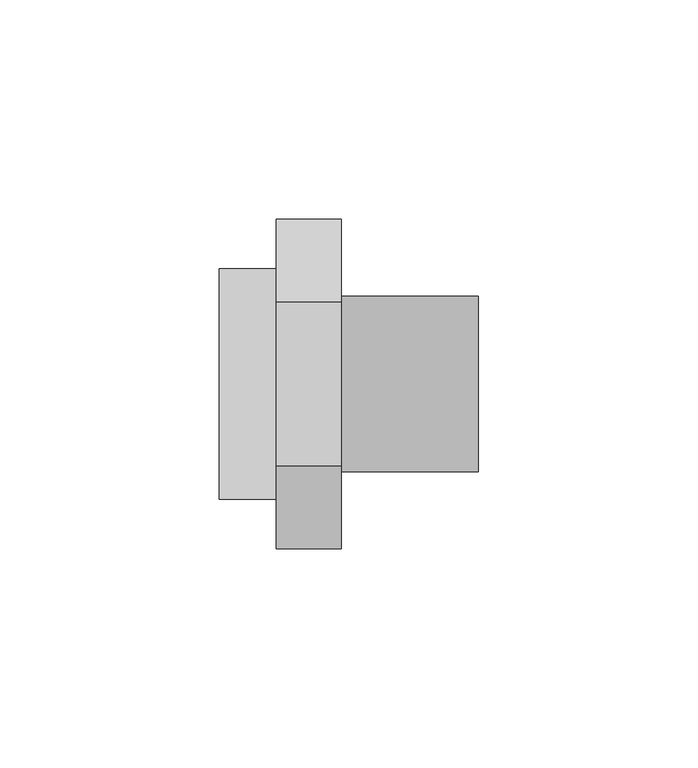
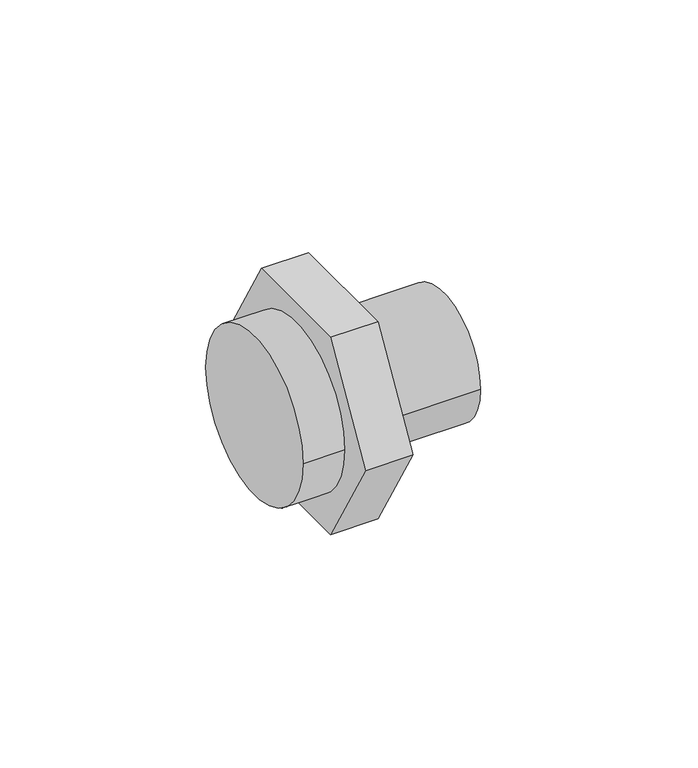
"""IFC4 building model written with IfcOpenShell, lengths in millimetres: pipe fitting geometry, 01101008 : Manguitos multiplos H/M/H."""

from ifc_helpers import new_model, si_unit, point, frame, origin, origin_2d, place, context, project, spatial, polyline, circle_curve, trimmed, segment, composite_curve, outline, extrude, source, transform, mapped, element, save


def pipe_fitting_eea0727a(model_context):
    return source(origin(), model_context, "Body", "SweptSolid", [
        extrude(outline(composite_curve([segment(trimmed(circle_curve(origin_2d(), 26.25), [point((26.25, 0.0))], [point((-26.25, 0.0))], False, "CARTESIAN"), True, "CONTINUOUS"), segment(trimmed(circle_curve(origin_2d(), 26.25), [point((-26.25, 0.0))], [point((26.25, 0.0))], False, "CARTESIAN"), True, "CONTINUOUS")], self_intersect=False)), frame((0.0, 0.0, 0.0), z_axis=(1.0, 0.0, 0.0), x_axis=(0.0, 1.0, 0.0)), (0.0, 0.0, 1.0), 13.0),
        extrude(outline(polyline([(-18.7638837, 32.5), (18.7638837, 32.5), (37.5277675, 0.0), (18.7638837, -32.5), (-18.7638837, -32.5), (-37.5277675, 0.0), (-18.7638837, 32.5)])), frame((13.0, 0.0, 0.0), z_axis=(1.0, 0.0, 0.0), x_axis=(0.0, 1.0, 0.0)), (0.0, 0.0, 1.0), 14.75),
        extrude(outline(composite_curve([segment(trimmed(circle_curve(origin_2d(), 20.0), [point((-20.0, 0.0))], [point((20.0, 0.0))], False, "CARTESIAN"), True, "CONTINUOUS"), segment(trimmed(circle_curve(origin_2d(), 20.0), [point((20.0, 0.0))], [point((-20.0, 0.0))], False, "CARTESIAN"), True, "CONTINUOUS")], self_intersect=False)), frame((27.75, 0.0, 0.0), z_axis=(1.0, 0.0, 0.0), x_axis=(0.0, 1.0, 0.0)), (0.0, 0.0, 1.0), 31.25),
    ])


if __name__ == "__main__":
    model = new_model("IFC4")
    model_context = context("Model", 3, world=origin())
    ifc_project = project(units=[si_unit("LENGTHUNIT", "METRE", prefix="MILLI")], contexts=[model_context])
    site = spatial("IfcSite", under=ifc_project)
    building = spatial("IfcBuilding", under=site)
    placement = place(None, origin())
    pipe_fitting_shape = pipe_fitting_eea0727a(model_context)
    element("IfcPipeFitting", 1, ObjectType="01101008 : Manguitos multiplos H/M/H", at=placement, inside=building, context=model_context, shape_type="MappedRepresentation", body=[
        mapped(pipe_fitting_shape, transform((0.0, 0.0, 0.0), x_axis=(1.0, 0.0, 0.0), y_axis=(0.0, 1.0, 0.0), z_axis=(0.0, 0.0, 1.0))),
    ])
    save(model, "model.ifc")
